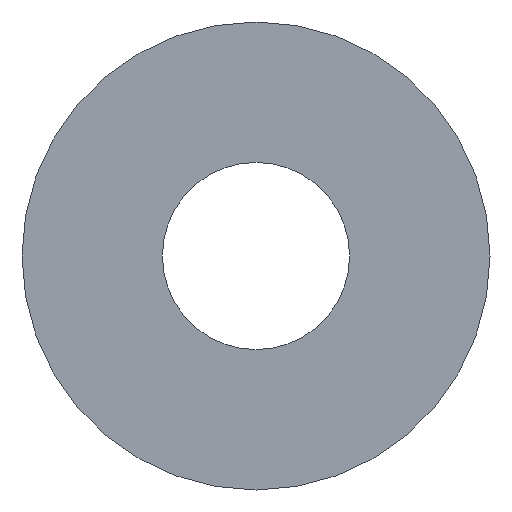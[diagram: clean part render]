
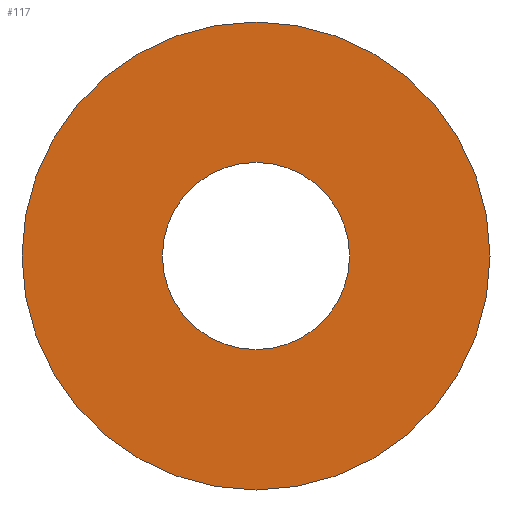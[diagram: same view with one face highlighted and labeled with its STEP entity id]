
A CAD part, left-side view. The second image highlights one B-rep face of the part: STEP entity #117.
In plain terms, the highlighted planar face has unit normal (-1, 0, 0).
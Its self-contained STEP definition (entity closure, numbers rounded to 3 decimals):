
#35=FACE_BOUND('',#50,.T.);
#38=PLANE('',#146);
#42=FACE_OUTER_BOUND('',#49,.T.);
#49=EDGE_LOOP('',(#95));
#50=EDGE_LOOP('',(#96));
#67=CIRCLE('',#145,1.6);
#68=CIRCLE('',#147,4.);
#74=VERTEX_POINT('',#195);
#75=VERTEX_POINT('',#199);
#82=EDGE_CURVE('',#74,#74,#67,.T.);
#83=EDGE_CURVE('',#75,#75,#68,.T.);
#95=ORIENTED_EDGE('',*,*,#83,.F.);
#96=ORIENTED_EDGE('',*,*,#82,.T.);
#117=ADVANCED_FACE('',(#42,#35),#38,.T.);
#145=AXIS2_PLACEMENT_3D('',#197,#164,#165);
#146=AXIS2_PLACEMENT_3D('',#198,#166,#167);
#147=AXIS2_PLACEMENT_3D('',#200,#168,#169);
#164=DIRECTION('center_axis',(1.,0.,0.));
#165=DIRECTION('ref_axis',(0.,0.,-1.));
#166=DIRECTION('center_axis',(-1.,0.,0.));
#167=DIRECTION('ref_axis',(0.,0.,1.));
#168=DIRECTION('center_axis',(1.,0.,0.));
#169=DIRECTION('ref_axis',(0.,0.,-1.));
#195=CARTESIAN_POINT('',(0.,-1.6,0.));
#197=CARTESIAN_POINT('Origin',(0.,0.,0.));
#198=CARTESIAN_POINT('Origin',(0.,4.,0.));
#199=CARTESIAN_POINT('',(0.,-4.,0.));
#200=CARTESIAN_POINT('Origin',(0.,0.,0.));
